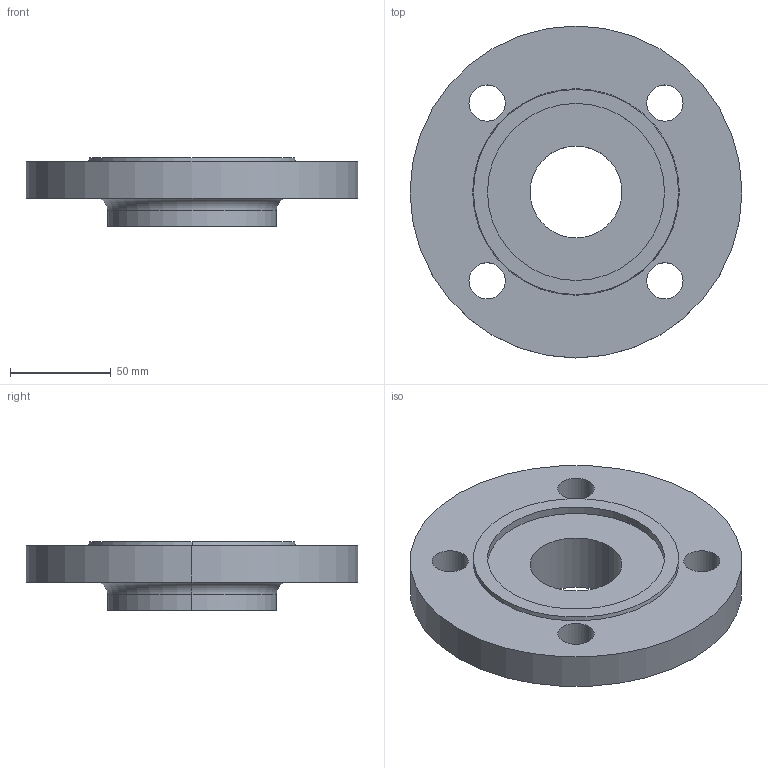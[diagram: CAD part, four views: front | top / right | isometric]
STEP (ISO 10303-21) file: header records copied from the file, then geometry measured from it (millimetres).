
FILE_DESCRIPTION (( 'STEP AP214' ), '1' );
FILE_NAME ('PN40 DN50 Type 13 - Type F Face.STEP', '2018-12-30T04:30:43', ( '' ), ( '' ), 'SwSTEP 2.0', 'SolidWorks 2019', '' );
FILE_SCHEMA (( 'AUTOMOTIVE_DESIGN' ));
Length unit declared in the file: millimetre
Products named in the file (1): PN40 DN50 Type 13 - Type F Face
Bounding box: 165 x 165 x 34 mm (x, y, z)
Volume: 389234.2 mm3; surface area: 59835.6 mm2
Topology: 1 solids, 1 shells, 25 faces, 58 edges, 38 vertices
Faces by surface type: cylinder 16, plane 5, torus 2, cone 2
Entity records: 790 total; most frequent: DIRECTION 150, CARTESIAN_POINT 122, ORIENTED_EDGE 116, AXIS2_PLACEMENT_3D 66, EDGE_CURVE 58, CIRCLE 40, VERTEX_POINT 38, EDGE_LOOP 38
